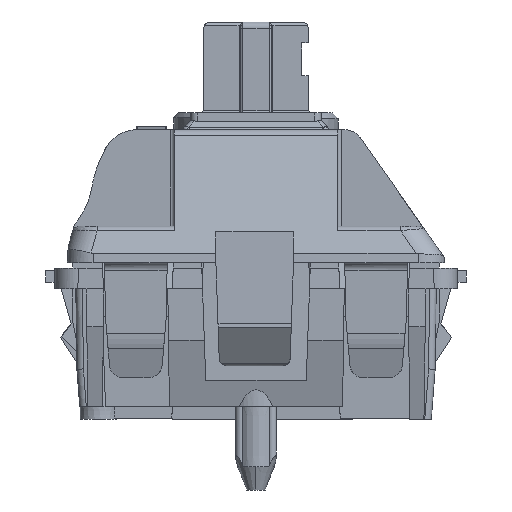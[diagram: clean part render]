
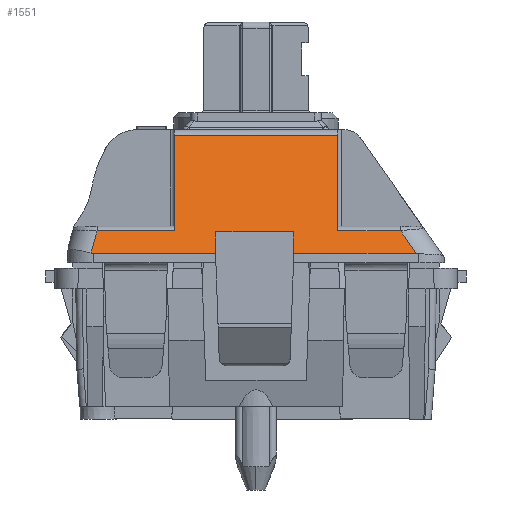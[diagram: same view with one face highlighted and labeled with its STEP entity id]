
A CAD part, front view. The second image highlights one B-rep face of the part: STEP entity #1551.
In plain terms, the highlighted planar face has unit normal (0, -0.927, 0.375).
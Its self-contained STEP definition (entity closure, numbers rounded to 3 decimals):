
#1019=ELLIPSE('',#17945,3.036,0.987);
#1551=ADVANCED_FACE('',(#3046),#2326,.F.);
#2326=PLANE('',#17995);
#3046=FACE_OUTER_BOUND('',#3925,.T.);
#3925=EDGE_LOOP('',(#7279,#7280,#7281,#7282,#7283,#7284,#7285,#7286,#7287,
#7288,#7289,#7290,#7291,#7292,#7293));
#7279=ORIENTED_EDGE('',*,*,#12495,.T.);
#7280=ORIENTED_EDGE('',*,*,#12556,.T.);
#7281=ORIENTED_EDGE('',*,*,#12219,.T.);
#7282=ORIENTED_EDGE('',*,*,#12557,.F.);
#7283=ORIENTED_EDGE('',*,*,#12549,.T.);
#7284=ORIENTED_EDGE('',*,*,#12548,.T.);
#7285=ORIENTED_EDGE('',*,*,#12452,.T.);
#7286=ORIENTED_EDGE('',*,*,#12449,.T.);
#7287=ORIENTED_EDGE('',*,*,#12554,.T.);
#7288=ORIENTED_EDGE('',*,*,#12555,.F.);
#7289=ORIENTED_EDGE('',*,*,#12551,.F.);
#7290=ORIENTED_EDGE('',*,*,#12489,.T.);
#7291=ORIENTED_EDGE('',*,*,#12526,.T.);
#7292=ORIENTED_EDGE('',*,*,#12525,.T.);
#7293=ORIENTED_EDGE('',*,*,#12558,.F.);
#10189=VERTEX_POINT('',#25882);
#10190=VERTEX_POINT('',#25883);
#10331=VERTEX_POINT('',#26388);
#10332=VERTEX_POINT('',#26389);
#10333=VERTEX_POINT('',#26394);
#10355=VERTEX_POINT('',#26539);
#10356=VERTEX_POINT('',#26541);
#10358=VERTEX_POINT('',#26551);
#10359=VERTEX_POINT('',#26553);
#10375=VERTEX_POINT('',#26611);
#10376=VERTEX_POINT('',#26613);
#10387=VERTEX_POINT('',#26661);
#10388=VERTEX_POINT('',#26663);
#10389=VERTEX_POINT('',#26670);
#10390=VERTEX_POINT('',#26674);
#12219=EDGE_CURVE('',#10189,#10190,#14526,.T.);
#12449=EDGE_CURVE('',#10331,#10332,#14700,.T.);
#12452=EDGE_CURVE('',#10333,#10331,#1019,.T.);
#12489=EDGE_CURVE('',#10356,#10355,#14728,.T.);
#12495=EDGE_CURVE('',#10359,#10358,#14733,.T.);
#12525=EDGE_CURVE('',#10376,#10375,#14757,.T.);
#12526=EDGE_CURVE('',#10355,#10376,#14758,.T.);
#12548=EDGE_CURVE('',#10387,#10333,#14778,.T.);
#12549=EDGE_CURVE('',#10388,#10387,#14779,.T.);
#12551=EDGE_CURVE('',#10356,#10389,#14780,.T.);
#12554=EDGE_CURVE('',#10332,#10390,#14783,.T.);
#12555=EDGE_CURVE('',#10389,#10390,#14784,.T.);
#12556=EDGE_CURVE('',#10358,#10189,#14785,.T.);
#12557=EDGE_CURVE('',#10388,#10190,#14786,.T.);
#12558=EDGE_CURVE('',#10359,#10375,#14787,.T.);
#14526=LINE('',#25881,#16438);
#14700=LINE('',#26387,#16612);
#14728=LINE('',#26540,#16640);
#14733=LINE('',#26552,#16645);
#14757=LINE('',#26612,#16669);
#14758=LINE('',#26614,#16670);
#14778=LINE('',#26660,#16690);
#14779=LINE('',#26662,#16691);
#14780=LINE('',#26669,#16692);
#14783=LINE('',#26675,#16695);
#14784=LINE('',#26677,#16696);
#14785=LINE('',#26679,#16697);
#14786=LINE('',#26680,#16698);
#14787=LINE('',#26681,#16699);
#16438=VECTOR('',#20416,1.);
#16612=VECTOR('',#20866,1.);
#16640=VECTOR('',#20934,1.);
#16645=VECTOR('',#20947,1.);
#16669=VECTOR('',#21001,1.);
#16670=VECTOR('',#21002,1.);
#16690=VECTOR('',#21038,1.);
#16691=VECTOR('',#21039,1.);
#16692=VECTOR('',#21042,1.);
#16695=VECTOR('',#21047,1.);
#16696=VECTOR('',#21050,1.);
#16697=VECTOR('',#21053,1.);
#16698=VECTOR('',#21054,1.);
#16699=VECTOR('',#21055,1.);
#17945=AXIS2_PLACEMENT_3D('',#26393,#20871,#20872);
#17995=AXIS2_PLACEMENT_3D('',#26682,#21056,#21057);
#20416=DIRECTION('',(0.,-0.375,-0.927));
#20866=DIRECTION('',(1.,0.,0.));
#20871=DIRECTION('',(0.,-0.927,0.375));
#20872=DIRECTION('',(-0.055,-0.374,-0.926));
#20934=DIRECTION('',(1.,0.,0.));
#20947=DIRECTION('',(0.,0.375,0.927));
#21001=DIRECTION('',(-0.545,0.314,0.778));
#21002=DIRECTION('',(-0.545,0.314,0.778));
#21038=DIRECTION('',(-0.242,-0.364,-0.9));
#21039=DIRECTION('',(-0.241,-0.364,-0.9));
#21042=DIRECTION('',(0.,0.375,0.927));
#21047=DIRECTION('',(0.,0.375,0.927));
#21050=DIRECTION('',(-1.,0.,0.));
#21053=DIRECTION('',(-1.,0.,0.));
#21054=DIRECTION('',(1.,0.,0.));
#21055=DIRECTION('',(1.,0.,0.));
#21056=DIRECTION('',(0.,0.927,-0.375));
#21057=DIRECTION('',(0.,-0.375,-0.927));
#25881=CARTESIAN_POINT('',(17.875,9.511,17.1));
#25882=CARTESIAN_POINT('',(17.875,9.42,16.875));
#25883=CARTESIAN_POINT('',(17.875,7.945,13.225));
#26387=CARTESIAN_POINT('',(14.78,7.595,12.359));
#26388=CARTESIAN_POINT('',(14.78,7.595,12.359));
#26389=CARTESIAN_POINT('',(19.463,7.595,12.359));
#26393=CARTESIAN_POINT('',(14.93,8.731,15.17));
#26394=CARTESIAN_POINT('',(14.684,7.6,12.372));
#26539=CARTESIAN_POINT('',(27.14,7.595,12.359));
#26540=CARTESIAN_POINT('',(22.435,7.595,12.359));
#26541=CARTESIAN_POINT('',(22.435,7.595,12.359));
#26551=CARTESIAN_POINT('',(24.124,9.42,16.875));
#26552=CARTESIAN_POINT('',(24.124,9.511,17.1));
#26553=CARTESIAN_POINT('',(24.124,7.945,13.225));
#26611=CARTESIAN_POINT('',(26.533,7.945,13.225));
#26612=CARTESIAN_POINT('',(26.706,7.845,12.977));
#26613=CARTESIAN_POINT('',(26.706,7.845,12.977));
#26614=CARTESIAN_POINT('',(27.14,7.595,12.359));
#26660=CARTESIAN_POINT('',(14.846,7.845,12.977));
#26661=CARTESIAN_POINT('',(14.846,7.845,12.977));
#26662=CARTESIAN_POINT('',(14.912,7.945,13.225));
#26663=CARTESIAN_POINT('',(14.912,7.945,13.225));
#26669=CARTESIAN_POINT('',(22.435,7.595,12.359));
#26670=CARTESIAN_POINT('',(22.435,7.929,13.185));
#26674=CARTESIAN_POINT('',(19.463,7.929,13.185));
#26675=CARTESIAN_POINT('',(19.463,7.595,12.359));
#26677=CARTESIAN_POINT('',(22.435,7.929,13.185));
#26679=CARTESIAN_POINT('',(17.875,9.42,16.875));
#26680=CARTESIAN_POINT('',(14.912,7.945,13.225));
#26681=CARTESIAN_POINT('',(24.102,7.945,13.225));
#26682=CARTESIAN_POINT('',(4.999,9.511,17.1));
